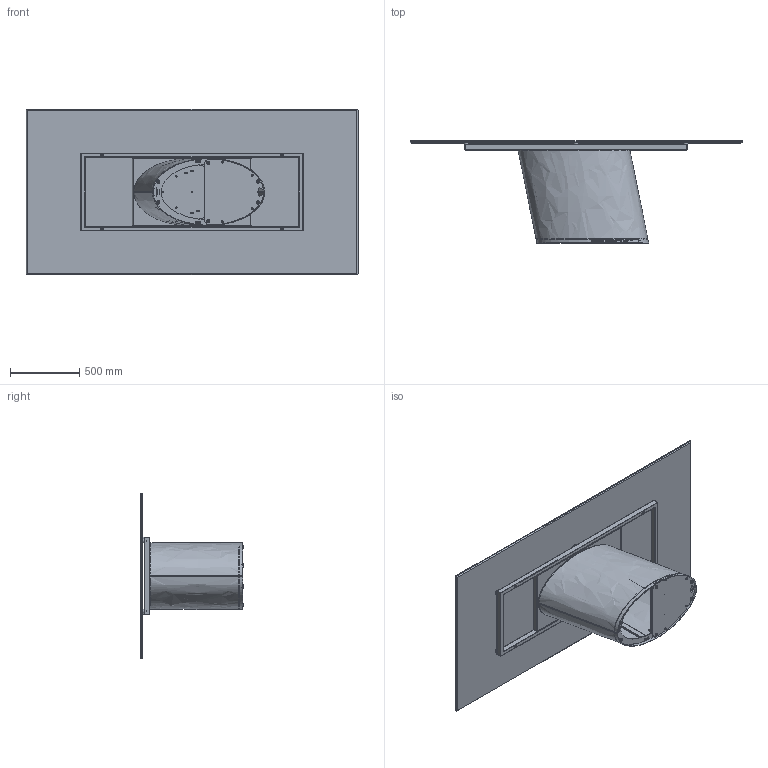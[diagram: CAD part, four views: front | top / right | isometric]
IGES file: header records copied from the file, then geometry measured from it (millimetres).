
Start section: SolidWorks IGES file using analytic representation for surfaces
Global section: file name: Y:\eforma\TECNICO\SOLIDWORKS\E-FORMA\1-TAVOLI\DORADO\02 parts\DO22C.IGS; native system: SolidWorks 2022; preprocessor: SolidWorks 2022; author: eforma.tech; date: 240806.151019; units: millimetre
Bounding box: 2390 x 738 x 1190 mm (x, y, z)
Volume: 57438338.7 mm3; surface area: 18714053.7 mm2
Topology: 50 solids, 50 shells, 1118 faces, 2712 edges, 1708 vertices
Faces by surface type: revolution 674, plane 418, bspline 26
